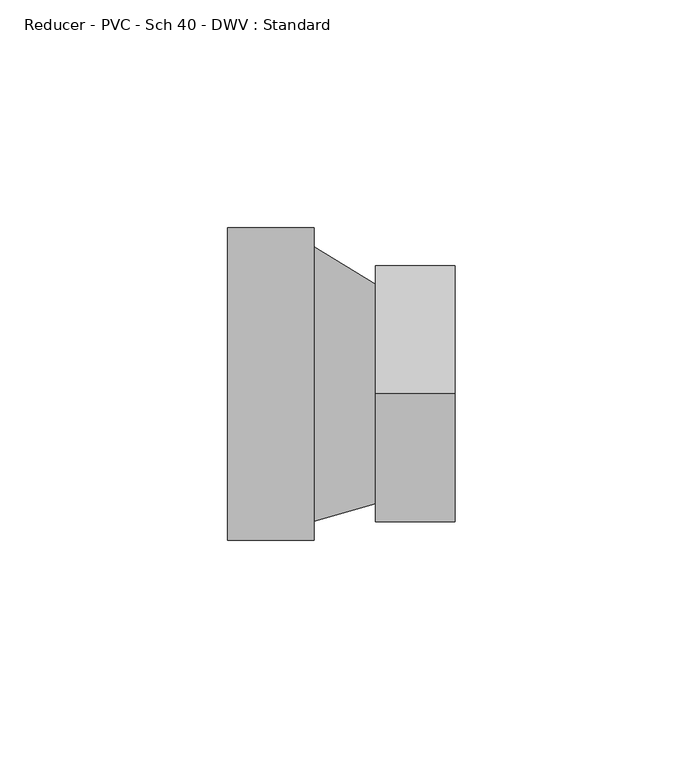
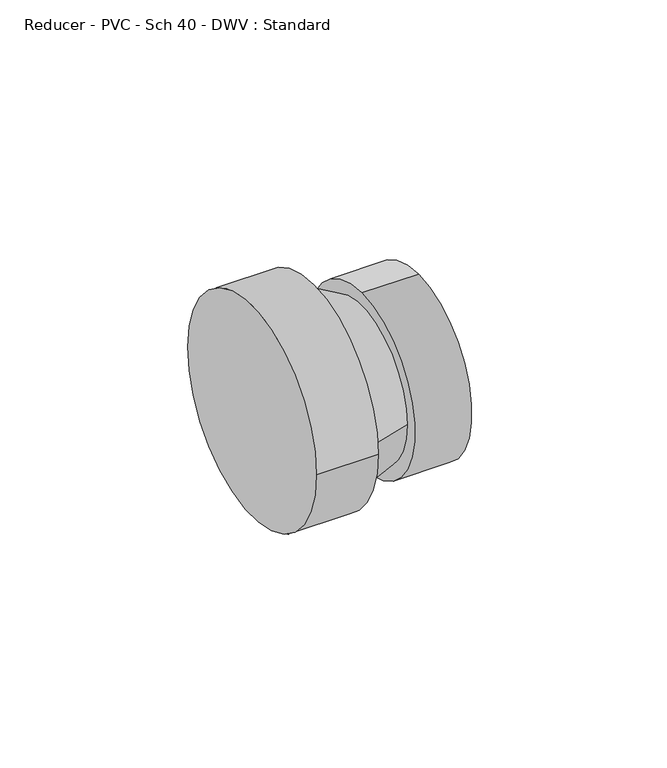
"""IFC4 building model written with IfcOpenShell, lengths in millimetres: pipe fitting geometry, Reducer - PVC - Sch 40 - DWV : Standard."""

import ifcopenshell
import ifcopenshell.guid

model = None  # the IFC model being written
_history = None  # IfcOwnerHistory: only IFC2X3 demands one
_inside = {}  # id of a spatial element -> (the spatial element, [elements in it])
_under = {}  # id of a project, library or spatial element -> (it, [spatial elements below it])
_declared = {}  # id of a project -> (the project, [libraries it declares])
_typed = {}  # id of a type object -> (the type object, [elements of that type])
_made_of = {}  # id of a material, layer set ... -> (it, [elements and type objects made of it])


def new_model(schema):
    """Start an empty IFC model of exactly this schema.

    Asked for "IFC4X3", IfcOpenShell would pick the latest addendum, in which some entities
    have other attributes; the version numbers below select the first issue.
    IFC2X3 requires an IfcOwnerHistory on every rooted entity: one is made here for all.
    """
    global model, _history
    if schema == "IFC4X3":
        model = ifcopenshell.file(schema_version=(4, 3, 0, 0))
    else:
        model = ifcopenshell.file(schema=schema)
    _inside.clear()
    _under.clear()
    _declared.clear()
    _typed.clear()
    _made_of.clear()
    _history = None
    if model.schema == "IFC2X3":
        org = make("IfcOrganization", Name="unknown")
        user = make(
            "IfcPersonAndOrganization",
            ThePerson=make("IfcPerson", FamilyName="unknown"),
            TheOrganization=org,
        )
        app = make(
            "IfcApplication",
            ApplicationDeveloper=org,
            Version="unknown",
            ApplicationFullName="unknown",
            ApplicationIdentifier="unknown",
        )
        _history = make(
            "IfcOwnerHistory",
            OwningUser=user,
            OwningApplication=app,
            ChangeAction="ADDED",
            CreationDate=0,
        )
    return model


def make(cls, **values):
    """One entity of the class cls with the attributes given. An attribute that is None is left unset."""
    return model.create_entity(
        cls, **{name: value for name, value in values.items() if value is not None}
    )


def rooted(cls, **values):
    """An entity with a GlobalId (a new one), such as an element, a storey or a relation."""
    return make(cls, GlobalId=ifcopenshell.guid.new(), OwnerHistory=_history, **values)


def si_unit(unit_type, name, prefix=None):
    """IfcSIUnit, for example si_unit("LENGTHUNIT", "METRE", prefix="MILLI")."""
    return make("IfcSIUnit", UnitType=unit_type, Prefix=prefix, Name=name)


def assignment(units):
    """IfcUnitAssignment: the units of a project."""
    return None if units is None else make("IfcUnitAssignment", Units=units)


def point(xyz):
    """IfcCartesianPoint."""
    return None if xyz is None else make("IfcCartesianPoint", Coordinates=xyz)


def direction(xyz):
    """IfcDirection."""
    return None if xyz is None else make("IfcDirection", DirectionRatios=xyz)


def frame(location, z_axis=None, x_axis=None):
    """IfcAxis2Placement3D, a coordinate frame: its origin and axes. An axis left out is left unset."""
    return make(
        "IfcAxis2Placement3D",
        Location=point(location),
        Axis=direction(z_axis),
        RefDirection=direction(x_axis),
    )


def origin():
    """The frame at (0, 0, 0) with its axes left unset."""
    return frame((0.0, 0.0, 0.0))


def place(relative_to, where):
    """IfcLocalPlacement: puts the frame where relative to a parent placement (None: the world)."""
    return make(
        "IfcLocalPlacement", PlacementRelTo=relative_to, RelativePlacement=where
    )


def context(
    kind, dimensions, precision=None, world=None, true_north=None, identifier=None
):
    """IfcGeometricRepresentationContext, for example the 3D "Model" context."""
    return make(
        "IfcGeometricRepresentationContext",
        ContextIdentifier=identifier,
        ContextType=kind,
        CoordinateSpaceDimension=dimensions,
        Precision=precision,
        WorldCoordinateSystem=world,
        TrueNorth=true_north,
    )


def project(units=None, contexts=None):
    """IfcProject with its units and contexts."""
    return rooted(
        "IfcProject",
        Name="project",
        RepresentationContexts=contexts,
        UnitsInContext=assignment(units),
    )


def spatial(cls, under=None, at=None, **own):
    """A site, building, storey or space (cls), placed at a placement, below another one or the project."""
    s = rooted(cls, ObjectPlacement=at, **own)
    if under is not None:
        _under.setdefault(under.id(), (under, []))[1].append(s)
    return s


def circle_curve(where, radius):
    """IfcCircle in the frame where."""
    return make("IfcCircle", Position=where, Radius=radius)


def shape(context_of_items, identifier, shape_type, items):
    """IfcShapeRepresentation: the items that make up one representation, for example the "Body"."""
    return make(
        "IfcShapeRepresentation",
        ContextOfItems=context_of_items,
        RepresentationIdentifier=identifier,
        RepresentationType=shape_type,
        Items=items,
    )


def source(mapping_origin, context_of_items, identifier, shape_type, items):
    """IfcRepresentationMap: a shape defined once, which mapped items show again and again."""
    return make(
        "IfcRepresentationMap",
        MappingOrigin=mapping_origin,
        MappedRepresentation=shape(context_of_items, identifier, shape_type, items),
    )


def transform(
    local_origin,
    x_axis=None,
    y_axis=None,
    z_axis=None,
    scale=None,
    scale2=None,
    scale3=None,
    uniform=True,
):
    """IfcCartesianTransformationOperator3D, or its non-uniform kind. x_axis, y_axis, z_axis: its Axis1, 2, 3."""
    if uniform:
        return make(
            "IfcCartesianTransformationOperator3D",
            Axis1=direction(x_axis),
            Axis2=direction(y_axis),
            LocalOrigin=point(local_origin),
            Scale=scale,
            Axis3=direction(z_axis),
        )
    return make(
        "IfcCartesianTransformationOperator3DnonUniform",
        Axis1=direction(x_axis),
        Axis2=direction(y_axis),
        LocalOrigin=point(local_origin),
        Scale=scale,
        Axis3=direction(z_axis),
        Scale2=scale2,
        Scale3=scale3,
    )


def mapped(mapping_source, mapping_target):
    """IfcMappedItem: shows the shape of a source again, moved by a transform."""
    return make(
        "IfcMappedItem", MappingSource=mapping_source, MappingTarget=mapping_target
    )


def made_of(thing, what):
    """Note that an element or type object is made of a material, layer set ...; save() writes the relation."""
    if what is not None:
        _made_of.setdefault(what.id(), (what, []))[1].append(thing)
    return thing


def element(
    cls,
    number,
    at=None,
    inside=None,
    cuts=None,
    type_object=None,
    material=None,
    context=None,
    identifier="Body",
    shape_type=None,
    held_by="IfcProductDefinitionShape",
    body=None,
    shapes=None,
    **own,
):
    """One element of the class cls, such as IfcWall. Its Tag is "e" and its number.

    at: its placement. inside: the storey or other place that contains it. cuts: it is an
    opening in that element (IfcRelVoidsElement). A single representation is given by context,
    identifier, shape_type and body (its items); several are given by shapes. held_by: the class
    of the entity that holds the representations. save() writes the other relations.
    """
    e = rooted(cls, Tag="e%d" % number, ObjectPlacement=at, **own)
    if body is not None:
        shapes = [shape(context, identifier, shape_type, body)]
    if shapes is not None:
        e.Representation = make(held_by, Representations=shapes)
    if inside is not None:
        _inside.setdefault(inside.id(), (inside, []))[1].append(e)
    if cuts is not None:
        rooted(
            "IfcRelVoidsElement", RelatingBuildingElement=cuts, RelatedOpeningElement=e
        )
    if type_object is not None:
        _typed.setdefault(type_object.id(), (type_object, []))[1].append(e)
    return made_of(e, material)


def aggregate(whole, parts):
    """IfcRelAggregates: a whole, such as a stair, and the parts it consists of."""
    return rooted("IfcRelAggregates", RelatingObject=whole, RelatedObjects=parts)


def save(model, path):
    """Write the relations noted so far, then the file.

    IfcRelAggregates (storeys below a building ...), IfcRelContainedInSpatialStructure (elements
    in a storey), IfcRelDefinesByType, IfcRelAssociatesMaterial and IfcRelDeclares: one each for
    every whole, place, type object, material and project.
    """
    for whole, parts in _under.values():
        aggregate(whole, parts)
    for where, things in _inside.values():
        rooted(
            "IfcRelContainedInSpatialStructure",
            RelatedElements=things,
            RelatingStructure=where,
        )
    for kind, things in _typed.values():
        rooted("IfcRelDefinesByType", RelatedObjects=things, RelatingType=kind)
    for what, things in _made_of.values():
        rooted("IfcRelAssociatesMaterial", RelatedObjects=things, RelatingMaterial=what)
    for by, libraries in _declared.values():
        rooted("IfcRelDeclares", RelatingContext=by, RelatedDefinitions=libraries)
    model.write(path)


def plane_surface(at):
    """IfcPlane: the flat surface through the origin of the frame at, square to its z axis."""
    return make("IfcPlane", Position=at)


def cylinder_surface(at, radius):
    """IfcCylindricalSurface: all points at the distance radius from the z axis of the frame at."""
    return make("IfcCylindricalSurface", Position=at, Radius=radius)


def spline_surface(u_degree, v_degree, points, u_multiplicities, v_multiplicities, u_knots, v_knots, weights=None):
    """IfcBSplineSurfaceWithKnots; with weights, IfcRationalBSplineSurfaceWithKnots. points: one row for each step in u."""
    own = dict(
        UDegree=u_degree,
        VDegree=v_degree,
        ControlPointsList=[[point(p) for p in row] for row in points],
        SurfaceForm="UNSPECIFIED",
        UClosed=False,
        VClosed=False,
        SelfIntersect=False,
        UMultiplicities=u_multiplicities,
        VMultiplicities=v_multiplicities,
        UKnots=u_knots,
        VKnots=v_knots,
        KnotSpec="UNSPECIFIED",
    )
    if weights is None:
        return make("IfcBSplineSurfaceWithKnots", **own)
    return make("IfcRationalBSplineSurfaceWithKnots", WeightsData=weights, **own)


def advanced_brep(points, edges, surfaces, faces):
    """IfcAdvancedBrep: a solid bounded by faces that lie on surfaces and meet in shared edges.

    An edge is (start, end): straight between two places in points (the first is 0);
    or (start, end, curve); or (start, end, curve, False) where it runs against its curve.
    A face is (place in surfaces, loops), or (place, loops, False) where it looks against
    its surface's normal. A loop lists edges by number (the first is 1), with a minus sign
    where the edge is run from its end to its start. The first loop is the outer one.
    """
    corners = [point(p) for p in points]
    vertices = [make("IfcVertexPoint", VertexGeometry=c) for c in corners]
    made = []
    for start, end, *more in edges:
        made.append(
            make(
                "IfcEdgeCurve",
                EdgeStart=vertices[start],
                EdgeEnd=vertices[end],
                EdgeGeometry=more[0] if more else make("IfcPolyline", Points=[corners[start], corners[end]]),
                SameSense=more[1] if len(more) > 1 else True,
            )
        )
    hull = []
    for where, loops, *sense in faces:
        bounds = []
        for j, loop in enumerate(loops):
            ring = [make("IfcOrientedEdge", EdgeElement=made[abs(k) - 1], Orientation=k > 0) for k in loop]
            bounds.append(
                make(
                    "IfcFaceOuterBound" if j == 0 else "IfcFaceBound",
                    Bound=make("IfcEdgeLoop", EdgeList=ring),
                    Orientation=True,
                )
            )
        hull.append(make("IfcAdvancedFace", Bounds=bounds, FaceSurface=surfaces[where], SameSense=sense[0] if sense else True))
    return make("IfcAdvancedBrep", Outer=make("IfcClosedShell", CfsFaces=hull))


def reducer_pvc_sch_40_dwv_standard_88dc3458(model_context):
    return source(origin(), model_context, "Body", "AdvancedBrep", [
        advanced_brep(
        [(0.0, 34.3154, 0.0), (0.0, -34.3154, 0.0), (19.05, 34.3154, 0.0), (19.05, -34.3154, 0.0), (19.05, -30.1625, 0.0), (19.05, 30.1625, 0.0), (32.5374, 21.9572511, 0.0), (32.5374, -26.3027489, 0.0), (32.5374, -2.1727489, 28.2829), (32.5374, -2.1727489, -28.2829), (49.9872, -2.1727489, 28.2829), (49.9872, -2.1727489, -28.2829)],
        [
            (0, 1, circle_curve(frame((0.0, 0.0, 0.0), z_axis=(-1.0, 0.0, 0.0), x_axis=(0.0, -1.0, 0.0)), 34.3154)),
            (1, 0, circle_curve(frame((0.0, 0.0, 0.0), z_axis=(-1.0, 0.0, 0.0), x_axis=(0.0, -1.0, 0.0)), 34.3154)),
            (2, 3, circle_curve(frame((19.05, 0.0, 0.0), z_axis=(1.0, 0.0, 0.0), x_axis=(0.0, -1.0, 0.0)), 34.3154)),
            (3, 2, circle_curve(frame((19.05, 0.0, 0.0), z_axis=(1.0, 0.0, 0.0), x_axis=(0.0, -1.0, 0.0)), 34.3154)),
            (4, 5, circle_curve(frame((19.05, 0.0, 0.0), z_axis=(-1.0, 0.0, 0.0), x_axis=(0.0, -1.0, 0.0)), 30.1625)),
            (5, 4, circle_curve(frame((19.05, 0.0, 0.0), z_axis=(-1.0, 0.0, 0.0), x_axis=(0.0, -1.0, 0.0)), 30.1625)),
            (1, 3),
            (2, 0),
            (5, 6),
            (6, 7, circle_curve(frame((32.5374, -2.1727489, 0.0), z_axis=(-1.0, 0.0, 0.0), x_axis=(0.0, -1.0, 0.0)), 24.13)),
            (7, 4),
            (7, 6, circle_curve(frame((32.5374, -2.1727489, 0.0), z_axis=(-1.0, 0.0, 0.0), x_axis=(0.0, -1.0, 0.0)), 24.13)),
            (8, 9, circle_curve(frame((32.5374, -2.1727489, 0.0), z_axis=(-1.0, 0.0, 0.0), x_axis=(0.0, 0.0, -1.0)), 28.2829)),
            (9, 8, circle_curve(frame((32.5374, -2.1727489, 0.0), z_axis=(-1.0, 0.0, 0.0), x_axis=(0.0, 0.0, -1.0)), 28.2829)),
            (10, 11, circle_curve(frame((49.9872, -2.1727489, 0.0), z_axis=(1.0, 0.0, 0.0), x_axis=(0.0, 0.0, -1.0)), 28.2829)),
            (11, 10, circle_curve(frame((49.9872, -2.1727489, 0.0), z_axis=(1.0, 0.0, 0.0), x_axis=(0.0, 0.0, -1.0)), 28.2829)),
            (9, 11),
            (10, 8),
        ],
        [
            plane_surface(frame((0.0, 0.0, 0.0), z_axis=(-1.0, 0.0, 0.0), x_axis=(0.0, 0.0, 1.0))),
            plane_surface(frame((19.05, 0.0, 0.0), z_axis=(1.0, 0.0, 0.0), x_axis=(0.0, 0.0, 1.0))),
            cylinder_surface(frame((0.0, 0.0, 0.0), z_axis=(-1.0, 0.0, 0.0), x_axis=(0.0, -1.0, 0.0)), 34.3154),
            spline_surface(1, 2, [[(19.05, 30.1625, 0.0), (19.05, 30.1625, -30.1625), (19.05, 0.0, -30.1625), (19.05, -30.1625, -30.1625), (19.05, -30.1625, 0.0)], [(32.5374, 21.9572511, 0.0), (32.5374, 21.9572511, -24.130000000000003), (32.5374, -2.1727489, -24.130000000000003), (32.5374, -26.302748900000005, -24.130000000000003), (32.5374, -26.3027489, 0.0)]], [2, 2], [3, 2, 3], [0.0, 1.0], [0.0, 1.0, 2.0], weights=[[1.0, 0.7071067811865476, 1.0, 0.7071067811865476, 1.0], [1.0, 0.7071067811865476, 1.0, 0.7071067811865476, 1.0]]),
            spline_surface(1, 2, [[(19.05, -30.1625, 0.0), (19.05, -30.1625, 30.1625), (19.05, 0.0, 30.1625), (19.05, 30.1625, 30.1625), (19.05, 30.1625, 0.0)], [(32.5374, -26.3027489, 0.0), (32.5374, -26.302748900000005, 24.130000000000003), (32.5374, -2.1727489, 24.130000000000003), (32.5374, 21.9572511, 24.130000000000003), (32.5374, 21.9572511, 0.0)]], [2, 2], [3, 2, 3], [0.0, 1.0], [0.0, 1.0, 2.0], weights=[[1.0, 0.7071067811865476, 1.0, 0.7071067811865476, 1.0], [1.0, 0.7071067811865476, 1.0, 0.7071067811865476, 1.0]]),
            plane_surface(frame((32.5374, -2.1727489, 0.0), z_axis=(-1.0, 0.0, 0.0), x_axis=(0.0, -1.0, 0.0))),
            plane_surface(frame((49.9872, -2.1727489, 0.0), z_axis=(1.0, 0.0, 0.0), x_axis=(0.0, -1.0, 0.0))),
            cylinder_surface(frame((32.5374, -2.1727489, 0.0), z_axis=(-1.0, 0.0, 0.0), x_axis=(0.0, 0.0, -1.0)), 28.2829),
        ],
        [
            (0, [[1, 2]]),
            (1, [[3, 4], [5, 6]]),
            (2, [[7, -3, 8, -2]]),
            (2, [[-8, -4, -7, -1]]),
            (3, [[-6, 9, 10, 11]]),
            (4, [[12, -9, -5, -11]]),
            (5, [[13, 14], [-12, -10]]),
            (6, [[15, 16]]),
            (7, [[17, -15, 18, -14]]),
            (7, [[-18, -16, -17, -13]]),
        ],
    ),
    ])


if __name__ == "__main__":
    model = new_model("IFC4")
    model_context = context("Model", 3, world=origin())
    ifc_project = project(units=[si_unit("LENGTHUNIT", "METRE", prefix="MILLI")], contexts=[model_context])
    site = spatial("IfcSite", under=ifc_project)
    building = spatial("IfcBuilding", under=site)
    placement = place(None, origin())
    reducer_pvc_sch_40_dwv_standard_shape = reducer_pvc_sch_40_dwv_standard_88dc3458(model_context)
    element("IfcPipeFitting", 1, ObjectType="Reducer - PVC - Sch 40 - DWV : Standard", at=placement, inside=building, context=model_context, shape_type="MappedRepresentation", body=[
        mapped(reducer_pvc_sch_40_dwv_standard_shape, transform((0.0, 0.0, 0.0), x_axis=(1.0, 0.0, 0.0), y_axis=(0.0, 1.0, 0.0), z_axis=(0.0, 0.0, 1.0))),
    ])
    save(model, "model.ifc")
